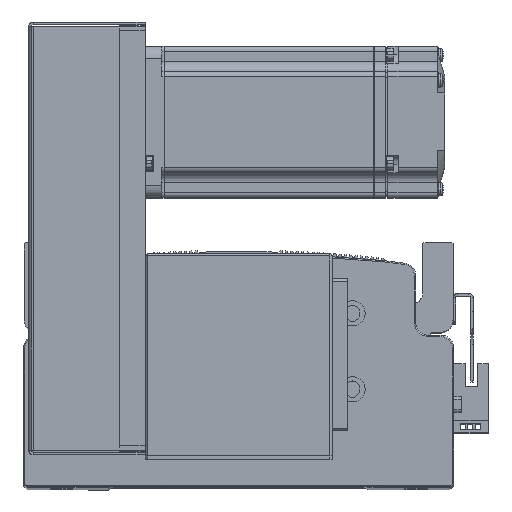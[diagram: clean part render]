
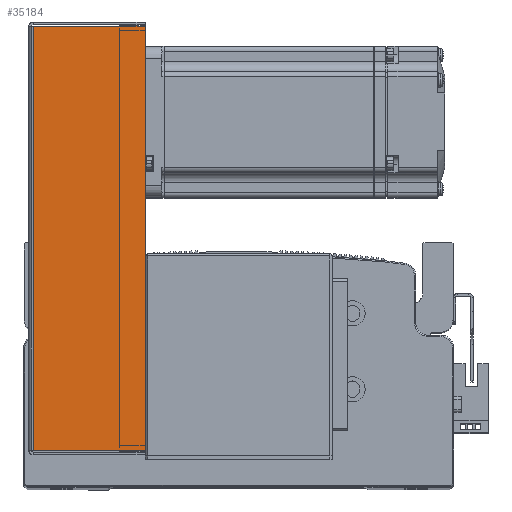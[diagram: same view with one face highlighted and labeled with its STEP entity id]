
A CAD part, top view. The second image highlights one B-rep face of the part: STEP entity #35184.
In plain terms, the highlighted planar face has unit normal (0, 0, 1) as drawn and (0, 0, -1) by its records, which use the part's own axes.
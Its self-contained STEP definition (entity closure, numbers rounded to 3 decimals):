
#19552 = ORIENTED_EDGE ( 'NONE', *, *, #25637, .T. ) ;
#19598 = ORIENTED_EDGE ( 'NONE', *, *, #25645, .F. ) ;
#19644 = ORIENTED_EDGE ( 'NONE', *, *, #25573, .T. ) ;
#19669 = ORIENTED_EDGE ( 'NONE', *, *, #25671, .F. ) ;
#22375 = CARTESIAN_POINT ( 'NONE',  ( 83.793, 45., -40.5 ) ) ;
#22420 = CARTESIAN_POINT ( 'NONE',  ( 83.793, 0.737, -40.5 ) ) ;
#22463 = CARTESIAN_POINT ( 'NONE',  ( -83.793, 0.737, -40.5 ) ) ;
#22465 = CARTESIAN_POINT ( 'NONE',  ( -83.793, 45., -40.5 ) ) ;
#25573 = EDGE_CURVE ( 'NONE', #45666, #45649, #60860, .T. ) ;
#25637 = EDGE_CURVE ( 'NONE', #45649, #45612, #60907, .T. ) ;
#25645 = EDGE_CURVE ( 'NONE', #45666, #45688, #60957, .T. ) ;
#25671 = EDGE_CURVE ( 'NONE', #45688, #45612, #60912, .T. ) ;
#30400 = EDGE_LOOP ( 'NONE', ( #19598, #19644, #19552, #19669 ) ) ;
#35184 = ADVANCED_FACE ( 'NONE', ( #61651 ), #63133, .F. ) ;
#45612 = VERTEX_POINT ( 'NONE', #22375 ) ;
#45649 = VERTEX_POINT ( 'NONE', #22465 ) ;
#45666 = VERTEX_POINT ( 'NONE', #22463 ) ;
#45688 = VERTEX_POINT ( 'NONE', #22420 ) ;
#51483 = AXIS2_PLACEMENT_3D ( 'NONE', #63199, #63213, #63186 ) ;
#54424 = CARTESIAN_POINT ( 'NONE',  ( -83.793, 0., -40.5 ) ) ;
#54437 = DIRECTION ( 'NONE',  ( 0., 1., 0. ) ) ;
#54684 = CARTESIAN_POINT ( 'NONE',  ( 84.5, 45., -40.5 ) ) ;
#54694 = DIRECTION ( 'NONE',  ( 1., 0., 0. ) ) ;
#54712 = CARTESIAN_POINT ( 'NONE',  ( 0., 0.737, -40.5 ) ) ;
#54722 = DIRECTION ( 'NONE',  ( 1., 0., 0. ) ) ;
#54800 = CARTESIAN_POINT ( 'NONE',  ( 83.793, 0., -40.5 ) ) ;
#54848 = DIRECTION ( 'NONE',  ( 0., 1., 0. ) ) ;
#60860 = LINE ( 'NONE', #54424, #60892 ) ;
#60892 = VECTOR ( 'NONE', #54437, 1000. ) ;
#60907 = LINE ( 'NONE', #54684, #60917 ) ;
#60912 = LINE ( 'NONE', #54800, #60927 ) ;
#60917 = VECTOR ( 'NONE', #54694, 1000. ) ;
#60927 = VECTOR ( 'NONE', #54848, 1000. ) ;
#60931 = VECTOR ( 'NONE', #54722, 1000. ) ;
#60957 = LINE ( 'NONE', #54712, #60931 ) ;
#61651 = FACE_OUTER_BOUND ( 'NONE', #30400, .T. ) ;
#63133 = PLANE ( 'NONE',  #51483 ) ;
#63186 = DIRECTION ( 'NONE',  ( 0., -1., 0. ) ) ;
#63199 = CARTESIAN_POINT ( 'NONE',  ( 0., 0., -40.5 ) ) ;
#63213 = DIRECTION ( 'NONE',  ( 0., 0., 1. ) ) ;
